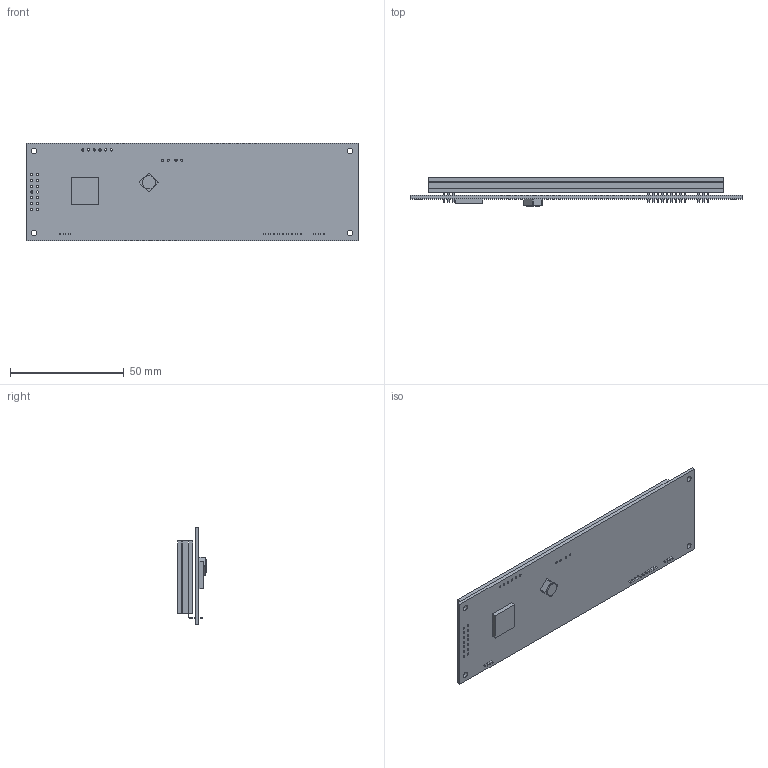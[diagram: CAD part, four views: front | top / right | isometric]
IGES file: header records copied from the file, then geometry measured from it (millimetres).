
Start section:  PTC IGES file: cu20029-uw1j.igs
Global section: file name: cu20029-uw1j.igs; native system: Pro/ENGINEER by Parametric Technology Corporation; preprocessor: 2010280; author: samx; organization: Unknown; date: 20161228.151624; units: millimetre
Bounding box: 146 x 12.7 x 43 mm (x, y, z)
Surface area: 28669.9 mm2 (no closed solid volume)
Topology: 0 solids, 0 shells, 523 faces, 2772 edges, 2772 vertices
Faces by surface type: bspline 423, revolution 100
